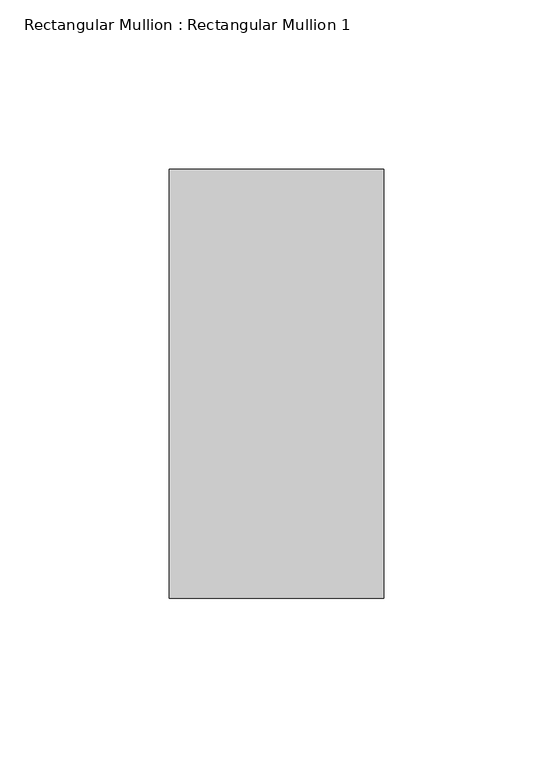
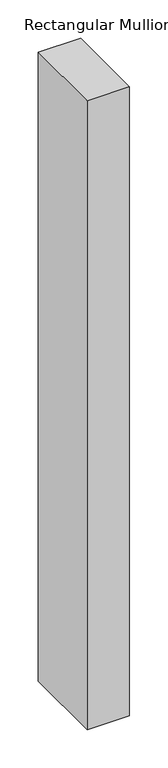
"""IFC4 building model written with IfcOpenShell, lengths in millimetres: member geometry, Rectangular Mullion : Rectangular Mullion 1."""

import ifcopenshell
import ifcopenshell.guid

model = None  # the IFC model being written
_history = None  # IfcOwnerHistory: only IFC2X3 demands one
_inside = {}  # id of a spatial element -> (the spatial element, [elements in it])
_under = {}  # id of a project, library or spatial element -> (it, [spatial elements below it])
_declared = {}  # id of a project -> (the project, [libraries it declares])
_typed = {}  # id of a type object -> (the type object, [elements of that type])
_made_of = {}  # id of a material, layer set ... -> (it, [elements and type objects made of it])


def new_model(schema):
    """Start an empty IFC model of exactly this schema.

    Asked for "IFC4X3", IfcOpenShell would pick the latest addendum, in which some entities
    have other attributes; the version numbers below select the first issue.
    IFC2X3 requires an IfcOwnerHistory on every rooted entity: one is made here for all.
    """
    global model, _history
    if schema == "IFC4X3":
        model = ifcopenshell.file(schema_version=(4, 3, 0, 0))
    else:
        model = ifcopenshell.file(schema=schema)
    _inside.clear()
    _under.clear()
    _declared.clear()
    _typed.clear()
    _made_of.clear()
    _history = None
    if model.schema == "IFC2X3":
        org = make("IfcOrganization", Name="unknown")
        user = make(
            "IfcPersonAndOrganization",
            ThePerson=make("IfcPerson", FamilyName="unknown"),
            TheOrganization=org,
        )
        app = make(
            "IfcApplication",
            ApplicationDeveloper=org,
            Version="unknown",
            ApplicationFullName="unknown",
            ApplicationIdentifier="unknown",
        )
        _history = make(
            "IfcOwnerHistory",
            OwningUser=user,
            OwningApplication=app,
            ChangeAction="ADDED",
            CreationDate=0,
        )
    return model


def make(cls, **values):
    """One entity of the class cls with the attributes given. An attribute that is None is left unset."""
    return model.create_entity(
        cls, **{name: value for name, value in values.items() if value is not None}
    )


def rooted(cls, **values):
    """An entity with a GlobalId (a new one), such as an element, a storey or a relation."""
    return make(cls, GlobalId=ifcopenshell.guid.new(), OwnerHistory=_history, **values)


def si_unit(unit_type, name, prefix=None):
    """IfcSIUnit, for example si_unit("LENGTHUNIT", "METRE", prefix="MILLI")."""
    return make("IfcSIUnit", UnitType=unit_type, Prefix=prefix, Name=name)


def assignment(units):
    """IfcUnitAssignment: the units of a project."""
    return None if units is None else make("IfcUnitAssignment", Units=units)


def point(xyz):
    """IfcCartesianPoint."""
    return None if xyz is None else make("IfcCartesianPoint", Coordinates=xyz)


def direction(xyz):
    """IfcDirection."""
    return None if xyz is None else make("IfcDirection", DirectionRatios=xyz)


def frame(location, z_axis=None, x_axis=None):
    """IfcAxis2Placement3D, a coordinate frame: its origin and axes. An axis left out is left unset."""
    return make(
        "IfcAxis2Placement3D",
        Location=point(location),
        Axis=direction(z_axis),
        RefDirection=direction(x_axis),
    )


def origin():
    """The frame at (0, 0, 0) with its axes left unset."""
    return frame((0.0, 0.0, 0.0))


def place(relative_to, where):
    """IfcLocalPlacement: puts the frame where relative to a parent placement (None: the world)."""
    return make(
        "IfcLocalPlacement", PlacementRelTo=relative_to, RelativePlacement=where
    )


def context(
    kind, dimensions, precision=None, world=None, true_north=None, identifier=None
):
    """IfcGeometricRepresentationContext, for example the 3D "Model" context."""
    return make(
        "IfcGeometricRepresentationContext",
        ContextIdentifier=identifier,
        ContextType=kind,
        CoordinateSpaceDimension=dimensions,
        Precision=precision,
        WorldCoordinateSystem=world,
        TrueNorth=true_north,
    )


def project(units=None, contexts=None):
    """IfcProject with its units and contexts."""
    return rooted(
        "IfcProject",
        Name="project",
        RepresentationContexts=contexts,
        UnitsInContext=assignment(units),
    )


def spatial(cls, under=None, at=None, **own):
    """A site, building, storey or space (cls), placed at a placement, below another one or the project."""
    s = rooted(cls, ObjectPlacement=at, **own)
    if under is not None:
        _under.setdefault(under.id(), (under, []))[1].append(s)
    return s


def polyline(points):
    """IfcPolyline through the points."""
    return make("IfcPolyline", Points=[point(p) for p in points])


def outline(outer, holes=None, kind="AREA"):
    """IfcArbitraryClosedProfileDef: a profile drawn as a closed curve; with holes, ...WithVoids."""
    if holes is None:
        return make("IfcArbitraryClosedProfileDef", ProfileType=kind, OuterCurve=outer)
    return make(
        "IfcArbitraryProfileDefWithVoids",
        ProfileType=kind,
        OuterCurve=outer,
        InnerCurves=holes,
    )


def extrude(swept, where, along, depth):
    """IfcExtrudedAreaSolid: the profile swept, set in the frame where, extruded along a direction by depth."""
    return make(
        "IfcExtrudedAreaSolid",
        SweptArea=swept,
        Position=where,
        ExtrudedDirection=direction(along),
        Depth=depth,
    )


def shape(context_of_items, identifier, shape_type, items):
    """IfcShapeRepresentation: the items that make up one representation, for example the "Body"."""
    return make(
        "IfcShapeRepresentation",
        ContextOfItems=context_of_items,
        RepresentationIdentifier=identifier,
        RepresentationType=shape_type,
        Items=items,
    )


def source(mapping_origin, context_of_items, identifier, shape_type, items):
    """IfcRepresentationMap: a shape defined once, which mapped items show again and again."""
    return make(
        "IfcRepresentationMap",
        MappingOrigin=mapping_origin,
        MappedRepresentation=shape(context_of_items, identifier, shape_type, items),
    )


def transform(
    local_origin,
    x_axis=None,
    y_axis=None,
    z_axis=None,
    scale=None,
    scale2=None,
    scale3=None,
    uniform=True,
):
    """IfcCartesianTransformationOperator3D, or its non-uniform kind. x_axis, y_axis, z_axis: its Axis1, 2, 3."""
    if uniform:
        return make(
            "IfcCartesianTransformationOperator3D",
            Axis1=direction(x_axis),
            Axis2=direction(y_axis),
            LocalOrigin=point(local_origin),
            Scale=scale,
            Axis3=direction(z_axis),
        )
    return make(
        "IfcCartesianTransformationOperator3DnonUniform",
        Axis1=direction(x_axis),
        Axis2=direction(y_axis),
        LocalOrigin=point(local_origin),
        Scale=scale,
        Axis3=direction(z_axis),
        Scale2=scale2,
        Scale3=scale3,
    )


def mapped(mapping_source, mapping_target):
    """IfcMappedItem: shows the shape of a source again, moved by a transform."""
    return make(
        "IfcMappedItem", MappingSource=mapping_source, MappingTarget=mapping_target
    )


def made_of(thing, what):
    """Note that an element or type object is made of a material, layer set ...; save() writes the relation."""
    if what is not None:
        _made_of.setdefault(what.id(), (what, []))[1].append(thing)
    return thing


def element(
    cls,
    number,
    at=None,
    inside=None,
    cuts=None,
    type_object=None,
    material=None,
    context=None,
    identifier="Body",
    shape_type=None,
    held_by="IfcProductDefinitionShape",
    body=None,
    shapes=None,
    **own,
):
    """One element of the class cls, such as IfcWall. Its Tag is "e" and its number.

    at: its placement. inside: the storey or other place that contains it. cuts: it is an
    opening in that element (IfcRelVoidsElement). A single representation is given by context,
    identifier, shape_type and body (its items); several are given by shapes. held_by: the class
    of the entity that holds the representations. save() writes the other relations.
    """
    e = rooted(cls, Tag="e%d" % number, ObjectPlacement=at, **own)
    if body is not None:
        shapes = [shape(context, identifier, shape_type, body)]
    if shapes is not None:
        e.Representation = make(held_by, Representations=shapes)
    if inside is not None:
        _inside.setdefault(inside.id(), (inside, []))[1].append(e)
    if cuts is not None:
        rooted(
            "IfcRelVoidsElement", RelatingBuildingElement=cuts, RelatedOpeningElement=e
        )
    if type_object is not None:
        _typed.setdefault(type_object.id(), (type_object, []))[1].append(e)
    return made_of(e, material)


def aggregate(whole, parts):
    """IfcRelAggregates: a whole, such as a stair, and the parts it consists of."""
    return rooted("IfcRelAggregates", RelatingObject=whole, RelatedObjects=parts)


def save(model, path):
    """Write the relations noted so far, then the file.

    IfcRelAggregates (storeys below a building ...), IfcRelContainedInSpatialStructure (elements
    in a storey), IfcRelDefinesByType, IfcRelAssociatesMaterial and IfcRelDeclares: one each for
    every whole, place, type object, material and project.
    """
    for whole, parts in _under.values():
        aggregate(whole, parts)
    for where, things in _inside.values():
        rooted(
            "IfcRelContainedInSpatialStructure",
            RelatedElements=things,
            RelatingStructure=where,
        )
    for kind, things in _typed.values():
        rooted("IfcRelDefinesByType", RelatedObjects=things, RelatingType=kind)
    for what, things in _made_of.values():
        rooted("IfcRelAssociatesMaterial", RelatedObjects=things, RelatingMaterial=what)
    for by, libraries in _declared.values():
        rooted("IfcRelDeclares", RelatingContext=by, RelatedDefinitions=libraries)
    model.write(path)


def rectangular_mullion_rectangular_mullion_1_ab002478(model_context):
    return source(origin(), model_context, "Body", "SweptSolid", [
        extrude(outline(polyline([(0.0, 63.5), (0.0, -63.5), (-63.5, -63.5), (-63.5, 63.5), (0.0, 63.5)])), frame((0.0, 0.0, -998.7642857), z_axis=(0.0, 0.0, 1.0), x_axis=(1.0, 0.0, 0.0)), (0.0, 0.0, 1.0), 998.7642857),
    ])


if __name__ == "__main__":
    model = new_model("IFC4")
    model_context = context("Model", 3, world=origin())
    ifc_project = project(units=[si_unit("LENGTHUNIT", "METRE", prefix="MILLI")], contexts=[model_context])
    site = spatial("IfcSite", under=ifc_project)
    building = spatial("IfcBuilding", under=site)
    placement = place(None, origin())
    rectangular_mullion_rectangular_mullion_1_shape = rectangular_mullion_rectangular_mullion_1_ab002478(model_context)
    element("IfcMember", 1, ObjectType="Rectangular Mullion : Rectangular Mullion 1", at=placement, inside=building, context=model_context, shape_type="MappedRepresentation", body=[
        mapped(rectangular_mullion_rectangular_mullion_1_shape, transform((0.0, 0.0, 0.0), x_axis=(1.0, 0.0, 0.0), y_axis=(0.0, 1.0, 0.0), z_axis=(0.0, 0.0, 1.0))),
    ])
    save(model, "model.ifc")
